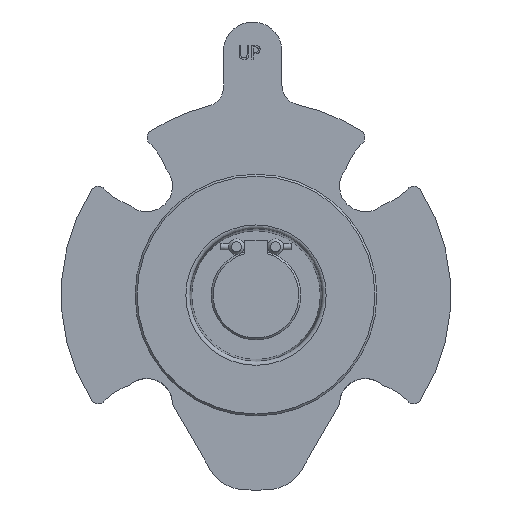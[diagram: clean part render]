
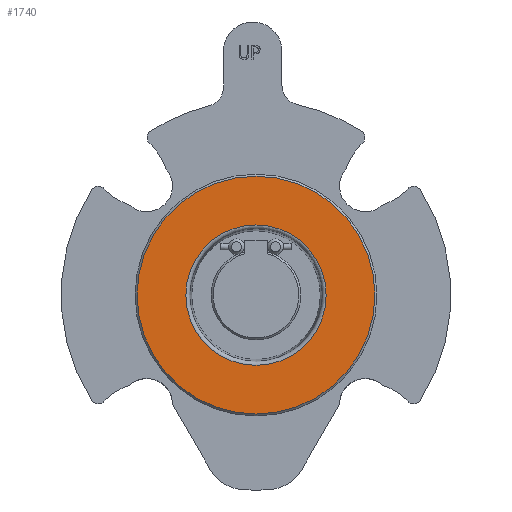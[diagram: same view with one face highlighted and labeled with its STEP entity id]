
A CAD part, front view. The second image highlights one B-rep face of the part: STEP entity #1740.
In plain terms, the highlighted planar face has unit normal (0, -1, 0).
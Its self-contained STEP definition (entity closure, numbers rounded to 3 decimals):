
#363=PLANE('',#1855);
#412=FACE_BOUND('',#560,.T.);
#447=FACE_OUTER_BOUND('',#559,.T.);
#559=EDGE_LOOP('',(#1230));
#560=EDGE_LOOP('',(#1231));
#704=CIRCLE('',#1854,17.999);
#705=CIRCLE('',#1856,30.5);
#797=VERTEX_POINT('',#2546);
#798=VERTEX_POINT('',#2549);
#974=EDGE_CURVE('',#797,#797,#704,.T.);
#975=EDGE_CURVE('',#798,#798,#705,.T.);
#1230=ORIENTED_EDGE('',*,*,#975,.F.);
#1231=ORIENTED_EDGE('',*,*,#974,.F.);
#1740=ADVANCED_FACE('',(#447,#412),#363,.F.);
#1854=AXIS2_PLACEMENT_3D('',#2547,#2046,#2047);
#1855=AXIS2_PLACEMENT_3D('',#2548,#2048,#2049);
#1856=AXIS2_PLACEMENT_3D('',#2550,#2050,#2051);
#2046=DIRECTION('center_axis',(0.,-1.,0.));
#2047=DIRECTION('ref_axis',(0.,0.,-1.));
#2048=DIRECTION('center_axis',(0.,1.,0.));
#2049=DIRECTION('ref_axis',(0.,0.,1.));
#2050=DIRECTION('center_axis',(0.,1.,0.));
#2051=DIRECTION('ref_axis',(-1.,0.,0.));
#2546=CARTESIAN_POINT('',(0.,-6.,17.999));
#2547=CARTESIAN_POINT('Origin',(0.,-6.,0.));
#2548=CARTESIAN_POINT('Origin',(0.,-6.,0.));
#2549=CARTESIAN_POINT('',(30.5,-6.,0.));
#2550=CARTESIAN_POINT('Origin',(0.,-6.,0.));
